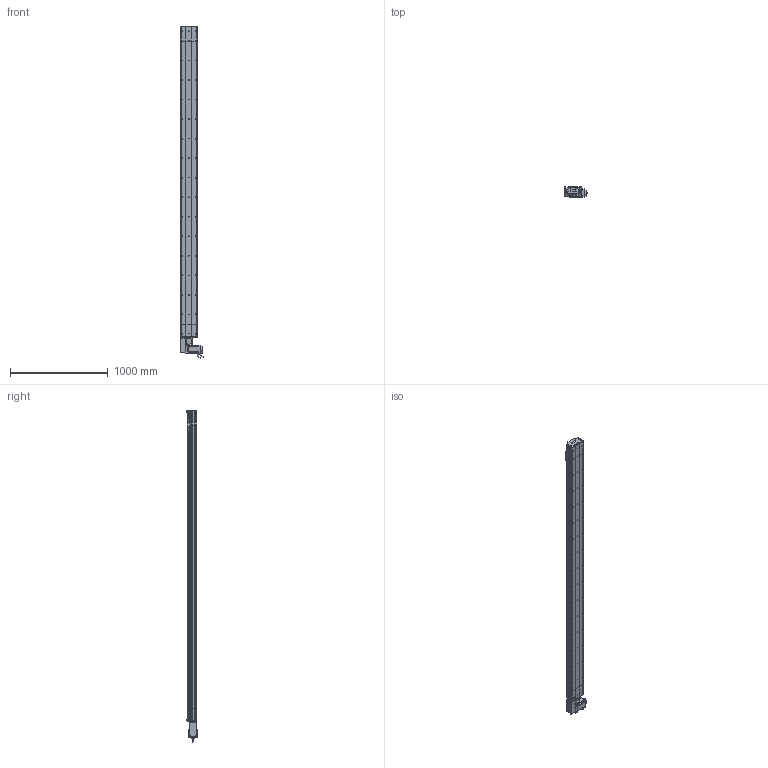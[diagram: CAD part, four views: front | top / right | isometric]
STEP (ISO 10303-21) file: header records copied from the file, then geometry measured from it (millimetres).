
FILE_DESCRIPTION (( 'STEP AP214' ), '1' );
FILE_NAME ('D17 TBN RH S2900.STEP', '2010-06-30T13:20:23', ( 'Conseil Régional Haute-Normandie' ), ( 'Conseil Régional Haute-Normandie' ), 'SwSTEP 2.0', 'SolidWorks 2010', '' );
FILE_SCHEMA (( 'AUTOMOTIVE_DESIGN' ));
Length unit declared in the file: millimetre
Products named in the file (40): Head RH D17B_Default; plaque de  bout head D17B RH_Default; poulie tail_Default; couvercle D17B head_Default; couvercle D17B_Default; corpl head D17 _Default; plaque de  bout tail D17B_Default; Couroie tail D17B_Default; Rail D17B; tete d''axe poulie D17B; cache arbre D17_Default; Vis M5 L16-2_Default; vis M5 L16_Default; corp tail D17B+100_Default; Tail D17B+100_Default; Renvoi RH_Default; Plaque racord D17_Default; vis M5 L70_Default; Conecteur_Default; Arbre+rail head D17B; Conecteur2_Default; codeur 90BLDC125-640; cache D17_Default; Moteur motionking 90BLDC125A-640; vis M5 L5_Default; corps 90BLDC125A-640; avant 90BLDC125A-640; couroie head D17_Default; poulie head_Default; guide D17; Chariot D17 TBN; chariot D17 TBN; vis M5 L12_Default; vis M5 L8 90°_Default; vis M5 L25_Default; course 2900 D17B_Default; D17 TBN RH S2900; couvercle D17B course L2900_Default; corp D17B 2900_Default; Couroie+ rail D17 Course 2900 
Assembly tree (66 placements, depth 4):
  D17 TBN RH S2900
    Head RH D17B_Default
      Vis M5 L16-2_Default  x4
      vis M5 L16_Default  x2
      Arbre+rail head D17B
      plaque de  bout head D17B RH_Default
      vis M5 L70_Default  x4
      vis M5 L12_Default  x8
      Plaque racord D17_Default
      cache arbre D17_Default
      couroie head D17_Default
      vis M5 L5_Default  x4
      Renvoi RH_Default
      cache D17_Default  x2
      vis M5 L25_Default  x2
      couvercle D17B head_Default
      corpl head D17 _Default
      poulie head_Default
      Moteur motionking 90BLDC125A-640
        corps 90BLDC125A-640
        Conecteur_Default
        avant 90BLDC125A-640
        Conecteur2_Default
        codeur 90BLDC125-640
    course 2900 D17B_Default
      couvercle D17B course L2900_Default
      corp D17B 2900_Default
      Couroie+ rail D17 Course 2900 
    chariot D17 TBN
      guide D17  x2
      Chariot D17 TBN
    Tail D17B+100_Default
      vis M5 L25_Default  x2
      vis M5 L12_Default  x4
      Couroie tail D17B_Default
      plaque de  bout tail D17B_Default
      poulie tail_Default
      corp tail D17B+100_Default
      vis M5 L8 90°_Default  x2
      Rail D17B
      couvercle D17B_Default
      tete d''axe poulie D17B
Bounding box: 245.2 x 105.65 x 3400.95 mm (x, y, z)
Volume: 18800094.8 mm3; surface area: 5489519.3 mm2
Topology: 89 solids, 89 shells, 2655 faces, 6843 edges, 4410 vertices
Faces by surface type: plane 1537, cylinder 821, bspline 136, cone 80, torus 77, sphere 4
Entity records: 86613 total; most frequent: CARTESIAN_POINT 25633, ORIENTED_EDGE 10858, DIRECTION 10238, EDGE_CURVE 5429, VERTEX_POINT 3554, VECTOR 3540, LINE 3540, AXIS2_PLACEMENT_3D 3349
